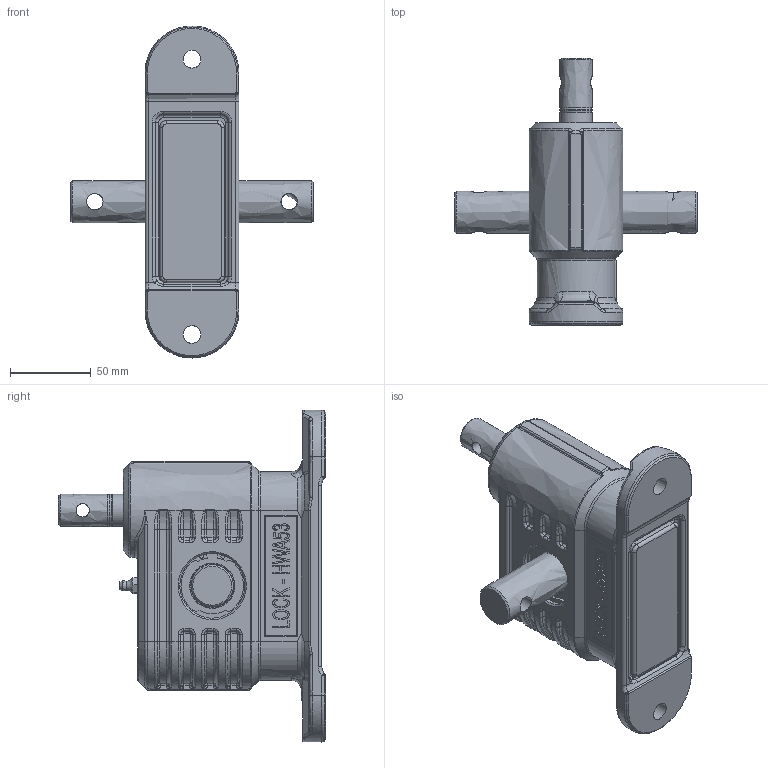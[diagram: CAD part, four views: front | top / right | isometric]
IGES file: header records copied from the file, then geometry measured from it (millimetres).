
Global section: file name: 52120_1601_06; native system: Autodesk Inventor 2022; preprocessor: unknown; author: Nesvadba; date: 20240222.164845; units: millimetre
Bounding box: 150 x 165 x 204.99 mm (x, y, z)
Volume: 423883.4 mm3; surface area: 145237.7 mm2
Topology: 14 solids, 15 shells, 2269 faces, 5947 edges, 3821 vertices
Faces by surface type: bspline 2269
